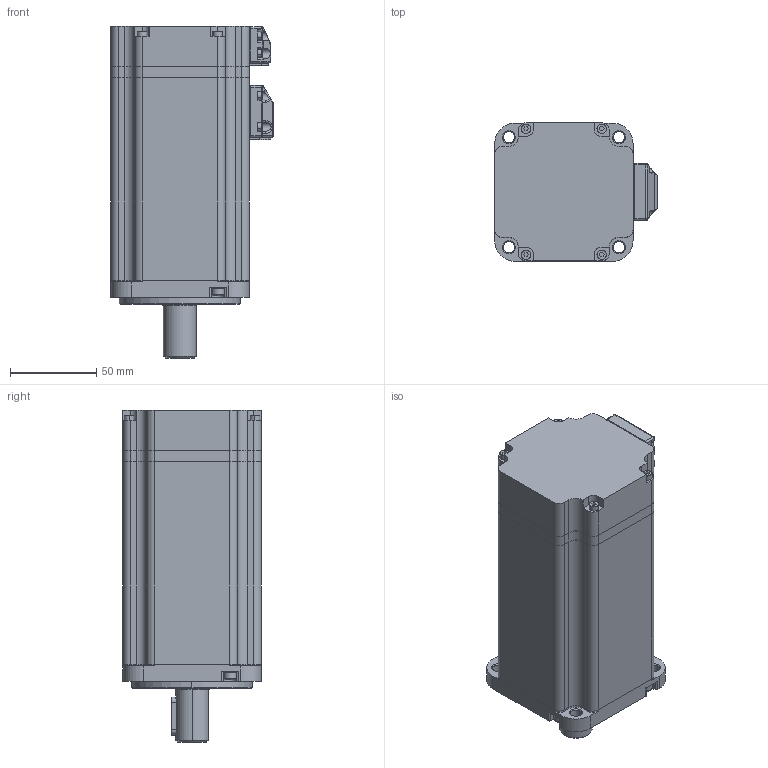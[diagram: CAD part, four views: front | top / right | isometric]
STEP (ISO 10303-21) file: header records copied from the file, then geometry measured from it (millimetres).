
FILE_DESCRIPTION (( 'STEP AP203' ), '1' );
FILE_NAME ('9.5915.STEP', '2020-08-03T08:07:13', ( 'K' ), ( 'K' ), 'SwSTEP 2.0', 'SolidWorks 2018', '' );
FILE_SCHEMA (( 'CONFIG_CONTROL_DESIGN' ));
Length unit declared in the file: millimetre
Products named in the file (1): 9.5915
Bounding box: 94 x 80 x 192 mm (x, y, z)
Volume: 328167.4 mm3; surface area: 165234.3 mm2
Topology: 31 solids, 31 shells, 1405 faces, 3503 edges, 2217 vertices
Faces by surface type: cylinder 626, plane 563, cone 112, torus 74, sphere 22, bspline 8
Entity records: 42758 total; most frequent: CARTESIAN_POINT 8210, DIRECTION 7635, ORIENTED_EDGE 6918, EDGE_CURVE 3459, AXIS2_PLACEMENT_3D 2894, VERTEX_POINT 2217, LINE 1847, VECTOR 1847
